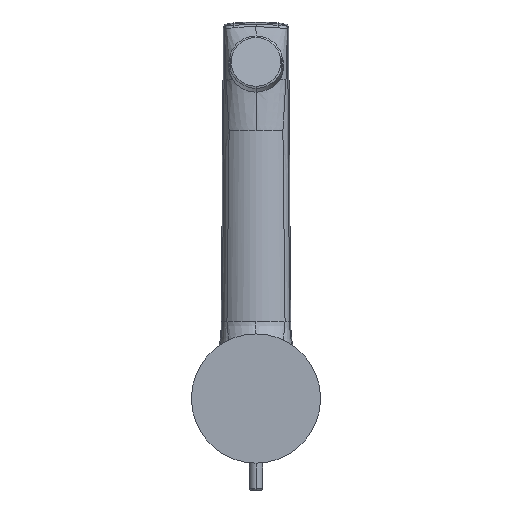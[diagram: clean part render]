
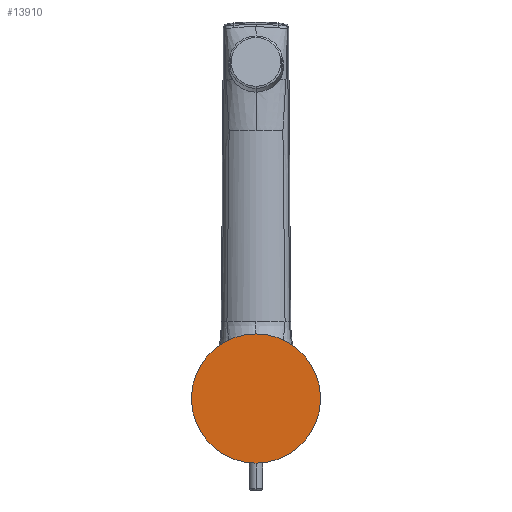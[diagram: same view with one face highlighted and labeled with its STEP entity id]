
A CAD part, front view. The second image highlights one B-rep face of the part: STEP entity #13910.
In plain terms, the highlighted planar face has unit normal (0, -1, 0).
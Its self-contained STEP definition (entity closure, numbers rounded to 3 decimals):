
#534=CARTESIAN_POINT('',(0.,-4.,0.));
#535=DIRECTION('',(0.,-1.,0.));
#536=DIRECTION('',(0.,0.,-1.));
#537=AXIS2_PLACEMENT_3D('',#534,#535,#536);
#548=CARTESIAN_POINT('',(0.,-4.,0.));
#549=DIRECTION('',(0.,1.,0.));
#550=DIRECTION('',(0.,0.,-1.));
#551=AXIS2_PLACEMENT_3D('',#548,#549,#550);
#13703=CARTESIAN_POINT('',(0.,-4.,-24.));
#13704=CARTESIAN_POINT('',(0.,-4.,24.));
#13705=VERTEX_POINT('',#13703);
#13706=VERTEX_POINT('',#13704);
#13901=CARTESIAN_POINT('',(0.,-4.,0.));
#13902=DIRECTION('',(0.,-1.,0.));
#13903=DIRECTION('',(0.,0.,1.));
#13904=AXIS2_PLACEMENT_3D('',#13901,#13902,#13903);
#13905=PLANE('',#13904);
#13906=ORIENTED_EDGE('',*,*,#13881,.F.);
#13907=ORIENTED_EDGE('',*,*,#13895,.T.);
#13908=EDGE_LOOP('',(#13906,#13907));
#13909=FACE_OUTER_BOUND('',#13908,.F.);
#13910=ADVANCED_FACE('',(#13909),#13905,.T.);
#538=CIRCLE('',#537,24.);
#552=CIRCLE('',#551,24.);
#13881=EDGE_CURVE('',#13705,#13706,#538,.T.);
#13895=EDGE_CURVE('',#13705,#13706,#552,.T.);
